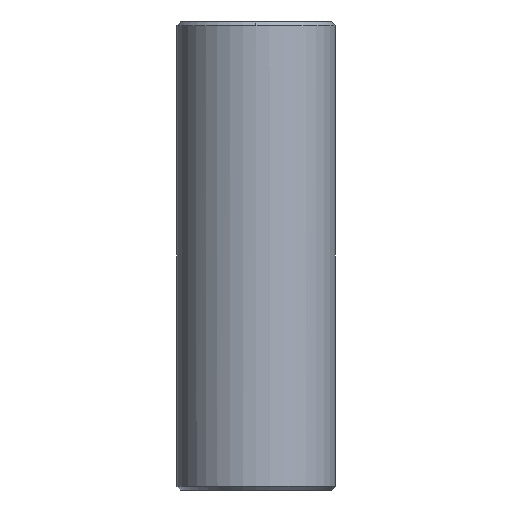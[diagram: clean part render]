
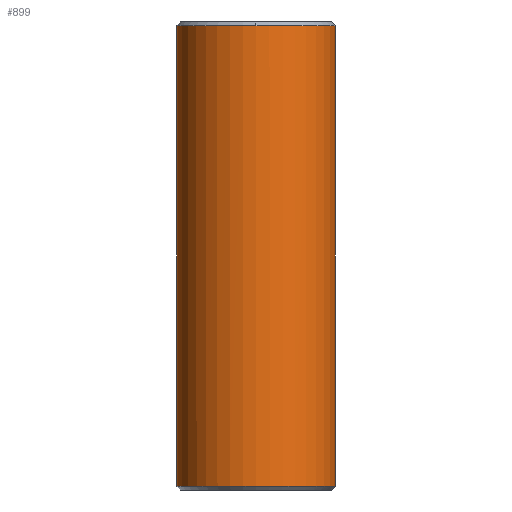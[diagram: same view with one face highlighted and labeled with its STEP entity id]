
A CAD part, left-side view. The second image highlights one B-rep face of the part: STEP entity #899.
In plain terms, the highlighted cylindrical face has radius 4 mm (diameter 8 mm), a partial arc.
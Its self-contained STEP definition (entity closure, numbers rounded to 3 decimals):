
#6 = CYLINDRICAL_SURFACE ( 'NONE', #1672, 4. ) ;
#140 = EDGE_CURVE ( 'NONE', #850, #340, #629, .T. ) ;
#193 = EDGE_CURVE ( 'NONE', #340, #513, #1297, .T. ) ;
#278 = DIRECTION ( 'NONE',  ( 1., 0., 0. ) ) ;
#293 = EDGE_LOOP ( 'NONE', ( #1552, #704, #1373, #1449, #992 ) ) ;
#330 = VERTEX_POINT ( 'NONE', #843 ) ;
#340 = VERTEX_POINT ( 'NONE', #542 ) ;
#372 = CARTESIAN_POINT ( 'NONE',  ( 62.596, -91.252, -23.4 ) ) ;
#464 = LINE ( 'NONE', #1355, #1213 ) ;
#513 = VERTEX_POINT ( 'NONE', #986 ) ;
#541 = CARTESIAN_POINT ( 'NONE',  ( 58.608, -91.565, -23.6 ) ) ;
#542 = CARTESIAN_POINT ( 'NONE',  ( 61.534, -94.293, -23.4 ) ) ;
#556 = EDGE_CURVE ( 'NONE', #513, #1288, #1265, .T. ) ;
#590 = DIRECTION ( 'NONE',  ( -1., 0., 0. ) ) ;
#629 = CIRCLE ( 'NONE', #721, 4. ) ;
#648 = DIRECTION ( 'NONE',  ( 0., 0., -1. ) ) ;
#649 = DIRECTION ( 'NONE',  ( 0., 0., 1. ) ) ;
#675 = EDGE_CURVE ( 'NONE', #850, #330, #464, .T. ) ;
#704 = ORIENTED_EDGE ( 'NONE', *, *, #556, .T. ) ;
#721 = AXIS2_PLACEMENT_3D ( 'NONE', #1014, #745, #1641 ) ;
#744 = DIRECTION ( 'NONE',  ( 0., 0., -1. ) ) ;
#745 = DIRECTION ( 'NONE',  ( 0., 0., 1. ) ) ;
#798 = CARTESIAN_POINT ( 'NONE',  ( 54.608, -91.565, -0.2 ) ) ;
#843 = CARTESIAN_POINT ( 'NONE',  ( 62.596, -91.252, -0.2 ) ) ;
#850 = VERTEX_POINT ( 'NONE', #372 ) ;
#858 = CARTESIAN_POINT ( 'NONE',  ( 58.608, -91.565, -0.2 ) ) ;
#899 = ADVANCED_FACE ( 'NONE', ( #1058 ), #6, .T. ) ;
#986 = CARTESIAN_POINT ( 'NONE',  ( 61.534, -94.293, -0.2 ) ) ;
#992 = ORIENTED_EDGE ( 'NONE', *, *, #140, .T. ) ;
#1014 = CARTESIAN_POINT ( 'NONE',  ( 58.608, -91.565, -23.4 ) ) ;
#1058 = FACE_OUTER_BOUND ( 'NONE', #293, .T. ) ;
#1174 = DIRECTION ( 'NONE',  ( -1., 0., 0. ) ) ;
#1185 = CARTESIAN_POINT ( 'NONE',  ( 61.534, -94.293, -23.6 ) ) ;
#1213 = VECTOR ( 'NONE', #1518, 1000. ) ;
#1265 = CIRCLE ( 'NONE', #1455, 4. ) ;
#1288 = VERTEX_POINT ( 'NONE', #798 ) ;
#1291 = VECTOR ( 'NONE', #1576, 1000. ) ;
#1297 = LINE ( 'NONE', #1185, #1291 ) ;
#1299 = AXIS2_PLACEMENT_3D ( 'NONE', #1482, #744, #590 ) ;
#1355 = CARTESIAN_POINT ( 'NONE',  ( 62.596, -91.252, -23.6 ) ) ;
#1373 = ORIENTED_EDGE ( 'NONE', *, *, #1479, .T. ) ;
#1449 = ORIENTED_EDGE ( 'NONE', *, *, #675, .F. ) ;
#1455 = AXIS2_PLACEMENT_3D ( 'NONE', #858, #648, #1174 ) ;
#1479 = EDGE_CURVE ( 'NONE', #1288, #330, #1676, .T. ) ;
#1482 = CARTESIAN_POINT ( 'NONE',  ( 58.608, -91.565, -0.2 ) ) ;
#1518 = DIRECTION ( 'NONE',  ( 0., 0., 1. ) ) ;
#1552 = ORIENTED_EDGE ( 'NONE', *, *, #193, .T. ) ;
#1576 = DIRECTION ( 'NONE',  ( 0., 0., 1. ) ) ;
#1641 = DIRECTION ( 'NONE',  ( -1., 0., 0. ) ) ;
#1672 = AXIS2_PLACEMENT_3D ( 'NONE', #541, #649, #278 ) ;
#1676 = CIRCLE ( 'NONE', #1299, 4. ) ;
